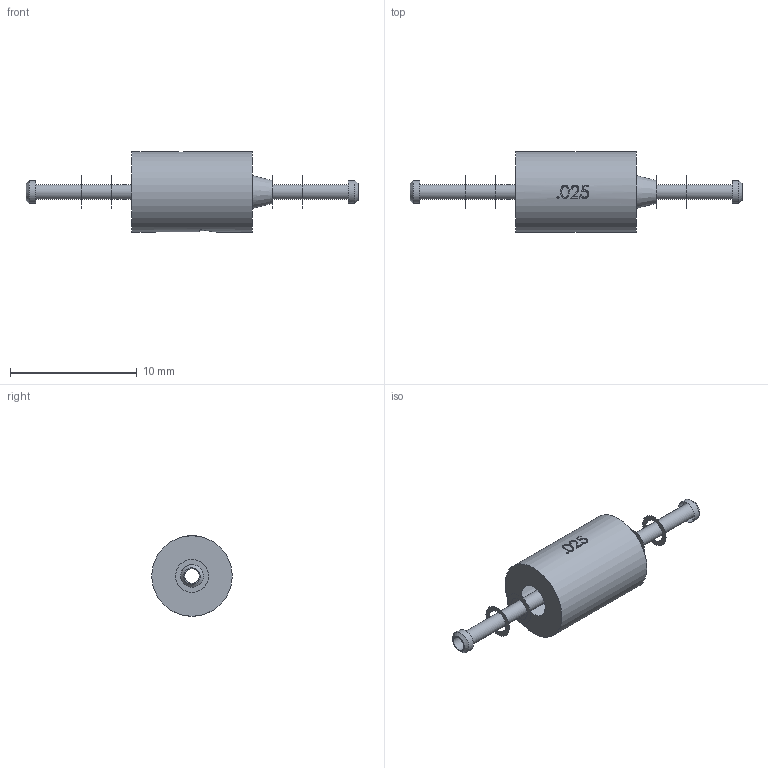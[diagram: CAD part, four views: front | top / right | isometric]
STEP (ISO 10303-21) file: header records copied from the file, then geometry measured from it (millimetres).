
FILE_DESCRIPTION(/* description */ ('SolidWorks IGES file using analytic representation for surfaces '),/* implementation_level */ '2;1');
FILE_NAME(/* name */ 'K:\Normteile INVENTOR\Air-Logic\Orifice restrictors\F-2815-251-B80.IGS.ipt.stp',/* time_stamp */ '2020-05-27T10:46:44+02:00',/* author */ ('cad'),/* organization */ (''),/* preprocessor_version */ 'ST-DEVELOPER v18',/* originating_system */ 'Autodesk Inventor 2020',/* authorisation */ '');
FILE_SCHEMA (('AUTOMOTIVE_DESIGN { 1 0 10303 214 3 1 1 }'));
Length unit declared in the file: millimetre
Products named in the file (1): F-2815-251-B80.IGS
Bounding box: 26.21 x 6.35 x 6.35 mm (x, y, z)
Volume: 334.3 mm3; surface area: 467.1 mm2
Topology: 1 solids, 1 shells, 72 faces, 195 edges, 136 vertices
Faces by surface type: bspline 33, plane 21, cylinder 10, cone 8
Full cylindrical faces by diameter (mm): 1.17 x1, 1.8 x2, 6.35 x1
Entity records: 4126 total; most frequent: CARTESIAN_POINT 2410, ORIENTED_EDGE 390, DIRECTION 263, EDGE_CURVE 195, VERTEX_POINT 136, AXIS2_PLACEMENT_3D 94, EDGE_LOOP 85, LINE 75
